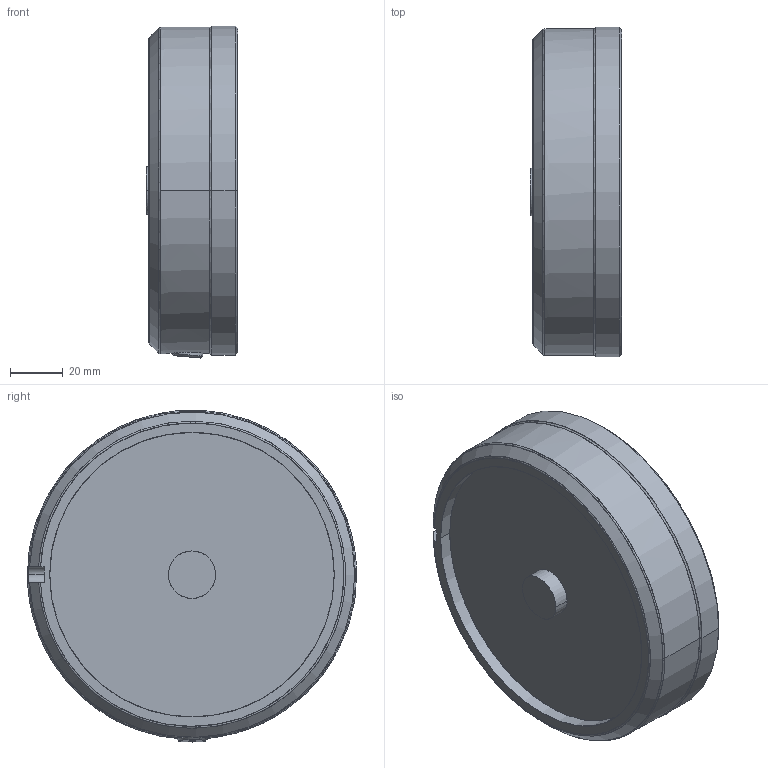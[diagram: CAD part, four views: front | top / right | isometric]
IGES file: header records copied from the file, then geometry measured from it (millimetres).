
Start section: SolidWorks IGES file using analytic representation for surfaces
Global section: file name: C:\Users\SEALDUN\OneDrive - ABB\Documents\R&D Robotics\Work Items\WI 632927 light weight hole removal\5710_Lightweight_AllFormats\IGES\IRB5710_90kg-270_OC_03_IGES_J\IRB5710_90kg-270_OmniCore_rev00_LINK06_CAD.igs; native system: SolidWorks 2024; preprocessor: SolidWorks 2024; author: SEALDUN; date: 250709.173714; units: millimetre
Bounding box: 34.9 x 125 x 126.02 mm (x, y, z)
Surface area: 51995.1 mm2 (no closed solid volume)
Topology: 0 solids, 0 shells, 130 faces, 2416 edges, 2402 vertices
Faces by surface type: revolution 92, bspline 38
